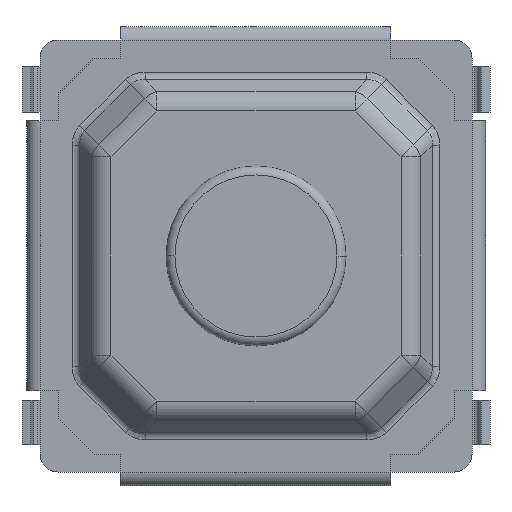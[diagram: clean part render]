
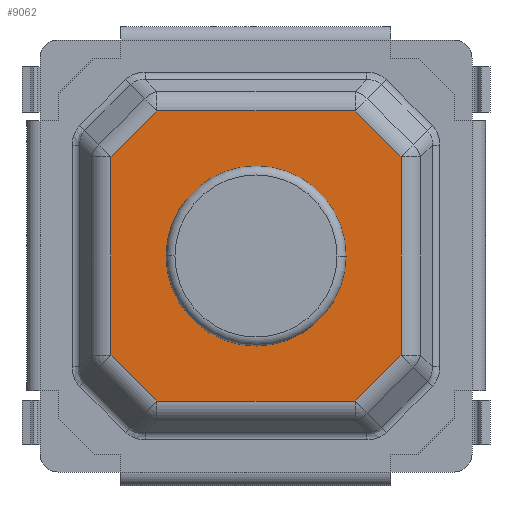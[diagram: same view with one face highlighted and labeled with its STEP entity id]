
A CAD part, front view. The second image highlights one B-rep face of the part: STEP entity #9062.
In plain terms, the highlighted planar face has unit normal (0, -1, 0).
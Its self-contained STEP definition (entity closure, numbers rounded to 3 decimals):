
#5928=DIRECTION('',(0.,0.,-1.));
#5929=VECTOR('',#5928,2.201);
#5930=CARTESIAN_POINT('',(-1.611,-0.55,1.101));
#5931=LINE('',#5930,#5929);
#5932=DIRECTION('',(-0.707,0.,-0.707));
#5933=VECTOR('',#5932,0.722);
#5934=CARTESIAN_POINT('',(-1.101,-0.55,1.611));
#5935=LINE('',#5934,#5933);
#5936=DIRECTION('',(-1.,0.,0.));
#5937=VECTOR('',#5936,2.201);
#5938=CARTESIAN_POINT('',(1.101,-0.55,1.611));
#5939=LINE('',#5938,#5937);
#5940=DIRECTION('',(-0.707,0.,0.707));
#5941=VECTOR('',#5940,0.722);
#5942=CARTESIAN_POINT('',(1.611,-0.55,1.101));
#5943=LINE('',#5942,#5941);
#5944=DIRECTION('',(0.,0.,1.));
#5945=VECTOR('',#5944,2.201);
#5946=CARTESIAN_POINT('',(1.611,-0.55,-1.101));
#5947=LINE('',#5946,#5945);
#5948=DIRECTION('',(0.707,0.,0.707));
#5949=VECTOR('',#5948,0.722);
#5950=CARTESIAN_POINT('',(1.101,-0.55,-1.611));
#5951=LINE('',#5950,#5949);
#5952=DIRECTION('',(1.,0.,0.));
#5953=VECTOR('',#5952,2.201);
#5954=CARTESIAN_POINT('',(-1.101,-0.55,-1.611));
#5955=LINE('',#5954,#5953);
#5956=DIRECTION('',(0.707,0.,-0.707));
#5957=VECTOR('',#5956,0.722);
#5958=CARTESIAN_POINT('',(-1.611,-0.55,-1.101));
#5959=LINE('',#5958,#5957);
#5960=CARTESIAN_POINT('',(0.,-0.55,0.));
#5961=DIRECTION('',(0.,-1.,0.));
#5962=DIRECTION('',(-1.,0.,0.));
#5963=AXIS2_PLACEMENT_3D('',#5960,#5961,#5962);
#5965=CARTESIAN_POINT('',(0.,-0.55,0.));
#5966=DIRECTION('',(0.,-1.,0.));
#5967=DIRECTION('',(1.,0.,0.));
#5968=AXIS2_PLACEMENT_3D('',#5965,#5966,#5967);
#6392=CARTESIAN_POINT('',(-1.611,-0.55,1.101));
#6393=CARTESIAN_POINT('',(-1.611,-0.55,-1.101));
#6394=VERTEX_POINT('',#6392);
#6395=VERTEX_POINT('',#6393);
#6400=CARTESIAN_POINT('',(-1.101,-0.55,-1.611));
#6401=VERTEX_POINT('',#6400);
#6406=CARTESIAN_POINT('',(1.101,-0.55,-1.611));
#6407=VERTEX_POINT('',#6406);
#6412=CARTESIAN_POINT('',(1.611,-0.55,-1.101));
#6413=VERTEX_POINT('',#6412);
#6418=CARTESIAN_POINT('',(1.611,-0.55,1.101));
#6419=VERTEX_POINT('',#6418);
#6424=CARTESIAN_POINT('',(1.101,-0.55,1.611));
#6425=VERTEX_POINT('',#6424);
#6430=CARTESIAN_POINT('',(-1.101,-0.55,1.611));
#6431=VERTEX_POINT('',#6430);
#6550=CARTESIAN_POINT('',(-1.,-0.55,0.));
#6551=CARTESIAN_POINT('',(1.,-0.55,0.));
#6552=VERTEX_POINT('',#6550);
#6553=VERTEX_POINT('',#6551);
#9034=CARTESIAN_POINT('',(0.,-0.55,0.));
#9035=DIRECTION('',(0.,-1.,0.));
#9036=DIRECTION('',(1.,0.,0.));
#9037=AXIS2_PLACEMENT_3D('',#9034,#9035,#9036);
#9038=PLANE('',#9037);
#9040=ORIENTED_EDGE('',*,*,#9039,.F.);
#9042=ORIENTED_EDGE('',*,*,#9041,.F.);
#9043=ORIENTED_EDGE('',*,*,#9024,.F.);
#9045=ORIENTED_EDGE('',*,*,#9044,.F.);
#9047=ORIENTED_EDGE('',*,*,#9046,.F.);
#9049=ORIENTED_EDGE('',*,*,#9048,.F.);
#9051=ORIENTED_EDGE('',*,*,#9050,.F.);
#9053=ORIENTED_EDGE('',*,*,#9052,.F.);
#9054=EDGE_LOOP('',(#9040,#9042,#9043,#9045,#9047,#9049,#9051,#9053));
#9055=FACE_OUTER_BOUND('',#9054,.F.);
#9057=ORIENTED_EDGE('',*,*,#9056,.T.);
#9059=ORIENTED_EDGE('',*,*,#9058,.T.);
#9060=EDGE_LOOP('',(#9057,#9059));
#9061=FACE_BOUND('',#9060,.F.);
#5964=CIRCLE('',#5963,1.);
#5969=CIRCLE('',#5968,1.);
#9024=EDGE_CURVE('',#6425,#6431,#5939,.T.);
#9039=EDGE_CURVE('',#6394,#6395,#5931,.T.);
#9041=EDGE_CURVE('',#6431,#6394,#5935,.T.);
#9044=EDGE_CURVE('',#6419,#6425,#5943,.T.);
#9046=EDGE_CURVE('',#6413,#6419,#5947,.T.);
#9048=EDGE_CURVE('',#6407,#6413,#5951,.T.);
#9050=EDGE_CURVE('',#6401,#6407,#5955,.T.);
#9052=EDGE_CURVE('',#6395,#6401,#5959,.T.);
#9056=EDGE_CURVE('',#6552,#6553,#5964,.T.);
#9058=EDGE_CURVE('',#6553,#6552,#5969,.T.);
#9062=ADVANCED_FACE('',(#9055,#9061),#9038,.T.);
